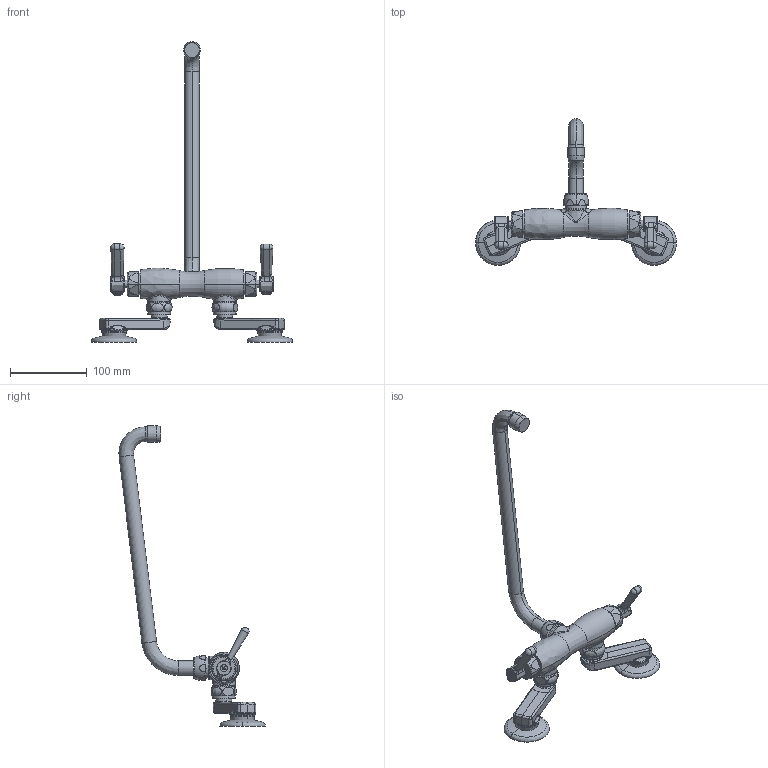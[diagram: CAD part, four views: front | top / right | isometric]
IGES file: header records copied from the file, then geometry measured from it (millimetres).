
Start section:  PTC IGES file: 445-l12_fitting_sw0001.igs
Global section: file name: 445-l12_fitting_sw0001.igs; native system: Pro/ENGINEER by Parametric Technology Corporation; preprocessor: 2009230; author: jrodriguez; organization: Unknown; date: 20100316.093617; units: inch
Bounding box: 261.95 x 190.35 x 391.59 mm (x, y, z)
Surface area: 100769.3 mm2 (no closed solid volume)
Topology: 0 solids, 34 shells, 483 faces, 1198 edges, 734 vertices
Faces by surface type: bspline 288, revolution 195
